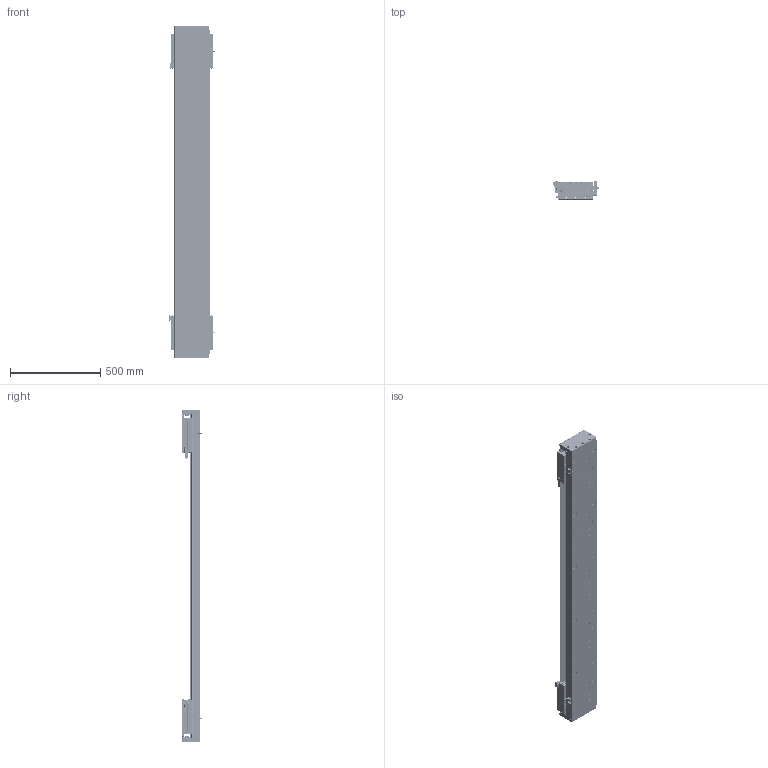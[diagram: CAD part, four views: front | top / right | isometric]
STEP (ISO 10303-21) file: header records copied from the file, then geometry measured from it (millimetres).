
FILE_DESCRIPTION (( 'STEP AP203' ), '1' );
FILE_NAME ('DA-C195-2-C2-T1340-C010-0.2 眻盄萇儂.STEP', '2025-08-14T02:04:12', ( '' ), ( '' ), 'SwSTEP 2.0', 'SolidWorks 2019', '' );
FILE_SCHEMA (( 'CONFIG_CONTROL_DESIGN' ));
Length unit declared in the file: millimetre
Products named in the file (19): IU-CU195-L 菁釱絳寢; CU195-C2賑輸-俋楷; DA-C195-GD-DB-H-00 傷啣; DA165-GYP-00 光电感应片(默认); DKW-GYP-ZJ-00 笢潔嫖萇覜茼え; DKW-KGZ-ZJ-00 中间光电开关支架; DA195詩湍郪璃; IU-CU195-L-00 菁釱(L1800); DA195詩湍嶺輸; DKW168-HXJ-ZJ-00 笢潔滅袉砎蝶; PM-T45ㄗ侂狟ㄘ; DA195詩湍裔啣; LMT黍杅芛; DA95-HXJ-00 遣喳砎蝶; DA-C195-2-C2-T1340-C010-0.2 眻盄萇儂; PM-Y65嫖萇羲壽郪璃; DA195詩湍菜輸; MS200 棠掑喜S315-T1740; 葩璃 DA95-GT-T-00
Assembly tree (37 placements, depth 3):
  DA-C195-2-C2-T1340-C010-0.2 眻盄萇儂
    DA195詩湍郪璃
      DA195詩湍菜輸  x2
      DA195詩湍裔啣
      DA195詩湍嶺輸  x2
      DA95-HXJ-00 遣喳砎蝶  x8
      DA-C195-GD-DB-H-00 傷啣  x2
    IU-CU195-L 菁釱絳寢
      IU-CU195-L-00 菁釱(L1800)
      葩璃 DA95-GT-T-00  x4
    LMT黍杅芛  x2
    MS200 棠掑喜S315-T1740
    PM-T45ㄗ侂狟ㄘ  x4
    DA165-GYP-00 光电感应片(默认)  x2
    PM-Y65嫖萇羲壽郪璃
    DKW168-HXJ-ZJ-00 笢潔滅袉砎蝶
    DKW-GYP-ZJ-00 笢潔嫖萇覜茼え
    DKW-KGZ-ZJ-00 中间光电开关支架
    CU195-C2賑輸-俋楷  x2
Bounding box: 258.2 x 115.45 x 1840 mm (x, y, z)
Volume: 12336172.6 mm3; surface area: 3506846.5 mm2
Topology: 114 solids, 242 shells, 6675 faces, 17303 edges, 10705 vertices
Faces by surface type: cylinder 2980, plane 2611, cone 916, torus 88, sphere 72, bspline 8
Entity records: 133649 total; most frequent: CARTESIAN_POINT 33535, ORIENTED_EDGE 20438, DIRECTION 20210, EDGE_CURVE 10219, AXIS2_PLACEMENT_3D 7413, VERTEX_POINT 6592, LINE 5384, VECTOR 5384
